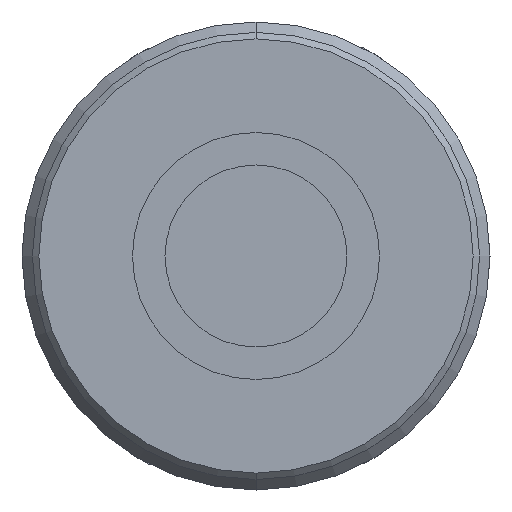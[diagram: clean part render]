
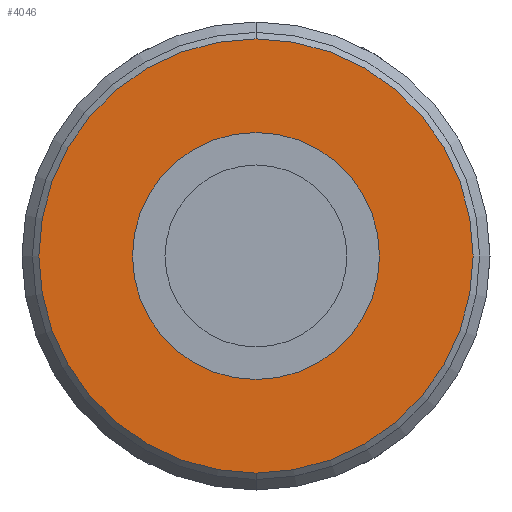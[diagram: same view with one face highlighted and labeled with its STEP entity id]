
A CAD part, front view. The second image highlights one B-rep face of the part: STEP entity #4046.
In plain terms, the highlighted planar face has unit normal (0, -1, 0).
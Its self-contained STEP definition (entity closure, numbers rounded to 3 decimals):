
#295 = AXIS2_PLACEMENT_3D ( 'NONE', #10384, #4597, #11368 ) ;
#451 = DIRECTION ( 'NONE',  ( 0., 0., -1. ) ) ;
#933 = ORIENTED_EDGE ( 'NONE', *, *, #5018, .F. ) ;
#1166 = DIRECTION ( 'NONE',  ( 0., -1., 0. ) ) ;
#1704 = CARTESIAN_POINT ( 'NONE',  ( -16.7, -32.399, 0. ) ) ;
#2169 = AXIS2_PLACEMENT_3D ( 'NONE', #6808, #1166, #7779 ) ;
#2652 = DIRECTION ( 'NONE',  ( 0., 1., 0. ) ) ;
#2654 = VERTEX_POINT ( 'NONE', #6118 ) ;
#3297 = ORIENTED_EDGE ( 'NONE', *, *, #9920, .F. ) ;
#3304 = EDGE_CURVE ( 'NONE', #2654, #8328, #9505, .T. ) ;
#3643 = CARTESIAN_POINT ( 'NONE',  ( 0., -32.399, 0. ) ) ;
#3864 = CIRCLE ( 'NONE', #8611, 9.5 ) ;
#4046 = ADVANCED_FACE ( 'NONE', ( #6155, #9031 ), #7363, .F. ) ;
#4572 = DIRECTION ( 'NONE',  ( 0., 0., -1. ) ) ;
#4597 = DIRECTION ( 'NONE',  ( 0., -1., 0. ) ) ;
#5018 = EDGE_CURVE ( 'NONE', #5065, #6916, #5239, .T. ) ;
#5065 = VERTEX_POINT ( 'NONE', #8977 ) ;
#5239 = CIRCLE ( 'NONE', #7809, 9.5 ) ;
#6056 = DIRECTION ( 'NONE',  ( 0., -1., 0. ) ) ;
#6118 = CARTESIAN_POINT ( 'NONE',  ( 0., -32.399, 16.7 ) ) ;
#6155 = FACE_BOUND ( 'NONE', #11074, .T. ) ;
#6806 = CIRCLE ( 'NONE', #2169, 16.7 ) ;
#6808 = CARTESIAN_POINT ( 'NONE',  ( 0., -32.399, 0. ) ) ;
#6916 = VERTEX_POINT ( 'NONE', #7033 ) ;
#7033 = CARTESIAN_POINT ( 'NONE',  ( 0., -32.399, 9.5 ) ) ;
#7363 = PLANE ( 'NONE',  #9606 ) ;
#7779 = DIRECTION ( 'NONE',  ( 0., 0., -1. ) ) ;
#7809 = AXIS2_PLACEMENT_3D ( 'NONE', #11903, #6056, #451 ) ;
#8328 = VERTEX_POINT ( 'NONE', #9743 ) ;
#8611 = AXIS2_PLACEMENT_3D ( 'NONE', #3643, #10360, #4572 ) ;
#8977 = CARTESIAN_POINT ( 'NONE',  ( 0., -32.399, -9.5 ) ) ;
#9031 = FACE_OUTER_BOUND ( 'NONE', #11676, .T. ) ;
#9318 = DIRECTION ( 'NONE',  ( 0., 0., 1. ) ) ;
#9505 = CIRCLE ( 'NONE', #295, 16.7 ) ;
#9606 = AXIS2_PLACEMENT_3D ( 'NONE', #1704, #2652, #9318 ) ;
#9743 = CARTESIAN_POINT ( 'NONE',  ( 0., -32.399, -16.7 ) ) ;
#9920 = EDGE_CURVE ( 'NONE', #6916, #5065, #3864, .T. ) ;
#10331 = ORIENTED_EDGE ( 'NONE', *, *, #11056, .T. ) ;
#10360 = DIRECTION ( 'NONE',  ( 0., -1., 0. ) ) ;
#10384 = CARTESIAN_POINT ( 'NONE',  ( 0., -32.399, 0. ) ) ;
#11056 = EDGE_CURVE ( 'NONE', #8328, #2654, #6806, .T. ) ;
#11074 = EDGE_LOOP ( 'NONE', ( #933, #3297 ) ) ;
#11368 = DIRECTION ( 'NONE',  ( 0., 0., -1. ) ) ;
#11676 = EDGE_LOOP ( 'NONE', ( #11874, #10331 ) ) ;
#11874 = ORIENTED_EDGE ( 'NONE', *, *, #3304, .T. ) ;
#11903 = CARTESIAN_POINT ( 'NONE',  ( 0., -32.399, 0. ) ) ;
